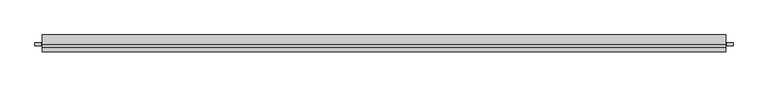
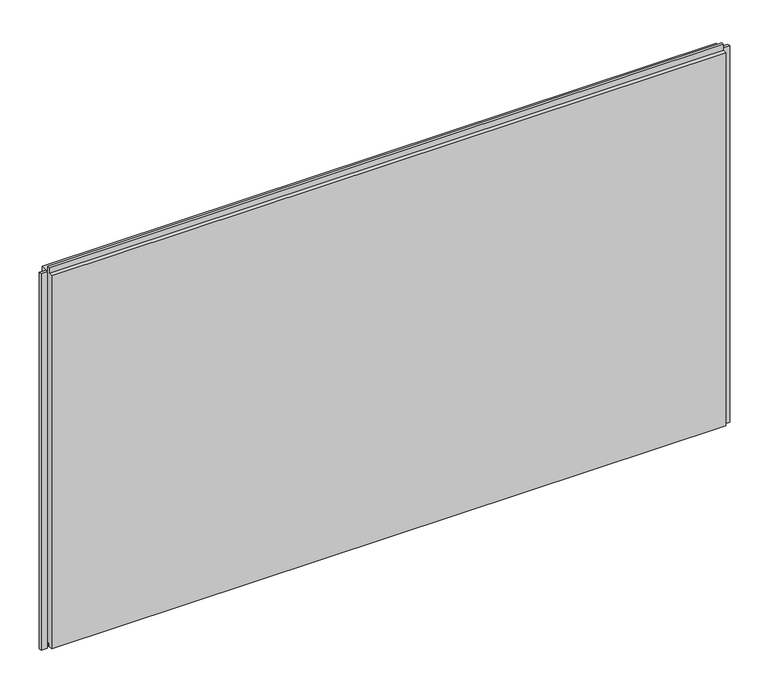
"""IFC4 building model written with IfcOpenShell, lengths in millimetres: plate geometry, Trimo_Qbiss Screen_Normal Panel-HORIZONTAL : HR - FB."""

from ifc_helpers import new_model, si_unit, frame, origin, place, context, project, spatial, polyline, outline, extrude, source, transform, mapped, element, save


def plate_62757427(model_context):
    return source(origin(), model_context, "Body", "SweptSolid", [
        extrude(outline(polyline([(-963.0, 76.5978162), (-963.0, 67.8978162), (-982.0, 67.8978162), (-982.0, 76.5978162), (-963.0, 76.5978162)])), frame((0.0, 0.0, -1.0), z_axis=(0.0, 0.0, 1.0), x_axis=(1.0, 0.0, 0.0)), (0.0, 0.0, 1.0), 1200.0),
        extrude(outline(polyline([(1075.5, 67.8978162), (1075.5, 76.5978162), (1094.5, 76.5978162), (1094.5, 67.8978162), (1075.5, 67.8978162)])), frame((0.0, 0.0, -1.0), z_axis=(0.0, 0.0, 1.0), x_axis=(1.0, 0.0, 0.0)), (0.0, 0.0, 1.0), 1200.0),
        extrude(outline(polyline([(71.0, 1196.0), (100.0, 1196.0), (100.0, 0.0), (72.0, 0.0), (72.0, 15.5), (62.0, 15.5), (62.0, 7.0), (50.0, 7.0), (50.0, 1196.0), (63.0, 1196.0), (63.0, 1214.5), (71.0, 1214.5), (71.0, 1196.0)])), frame((-960.0, 0.0, 0.0), z_axis=(1.0, 0.0, 0.0), x_axis=(0.0, 1.0, 0.0)), (0.0, 0.0, 1.0), 2032.5),
    ])


if __name__ == "__main__":
    model = new_model("IFC4")
    model_context = context("Model", 3, world=origin())
    ifc_project = project(units=[si_unit("LENGTHUNIT", "METRE", prefix="MILLI")], contexts=[model_context])
    site = spatial("IfcSite", under=ifc_project)
    building = spatial("IfcBuilding", under=site)
    placement = place(None, origin())
    plate_shape = plate_62757427(model_context)
    element("IfcPlate", 1, ObjectType="Trimo_Qbiss Screen_Normal Panel-HORIZONTAL : HR - FB", at=placement, inside=building, context=model_context, shape_type="MappedRepresentation", body=[
        mapped(plate_shape, transform((0.0, 0.0, 0.0), x_axis=(1.0, 0.0, 0.0), y_axis=(0.0, 1.0, 0.0), z_axis=(0.0, 0.0, 1.0))),
    ])
    save(model, "model.ifc")
